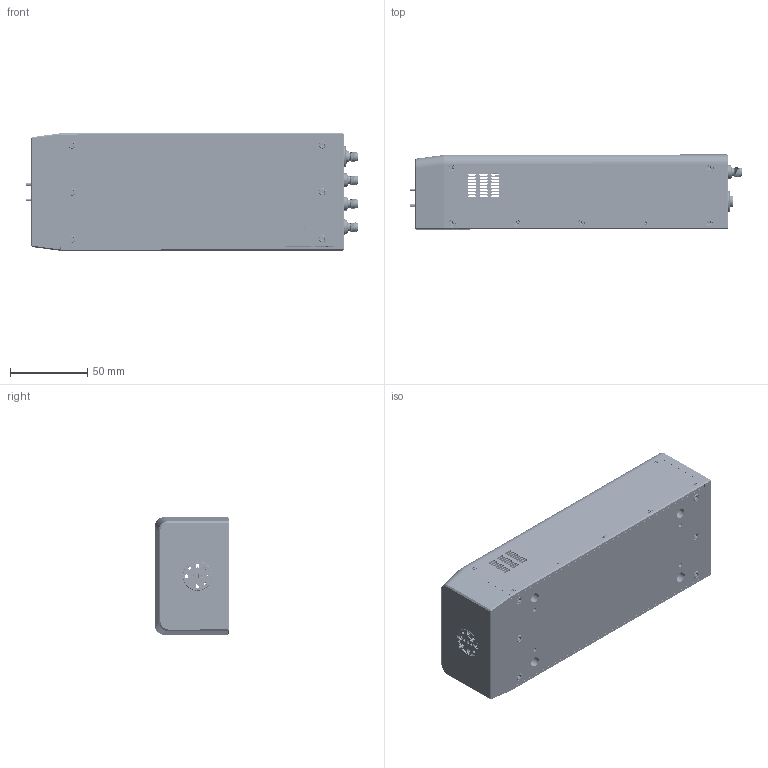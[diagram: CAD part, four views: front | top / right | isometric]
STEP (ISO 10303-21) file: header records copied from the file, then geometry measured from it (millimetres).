
FILE_DESCRIPTION (( 'STEP AP214' ), '1' );
FILE_NAME ('TO-SW-A-2, Defeatured, mountable.STEP', '2025-07-09T18:05:10', ( '' ), ( '' ), 'SwSTEP 2.0', 'SolidWorks 2021', '' );
FILE_SCHEMA (( 'AUTOMOTIVE_DESIGN' ));
Length unit declared in the file: inch
Products named in the file (1): TO-SW-A-2, Defeatured, mountable
Bounding box: 215.51 x 48.66 x 76.35 mm (x, y, z)
Volume: 200452.3 mm3; surface area: 131305.4 mm2
Topology: 74 solids, 74 shells, 3883 faces, 10465 edges, 6730 vertices
Faces by surface type: cylinder 1797, plane 1026, cone 550, bspline 506, torus 4
Entity records: 418698 total; most frequent: CARTESIAN_POINT 281441, ORIENTED_EDGE 20778, DIRECTION 14793, EDGE_CURVE 10389, VERTEX_POINT 6730, AXIS2_PLACEMENT_3D 5408, EDGE_LOOP 4225, VECTOR 3977
